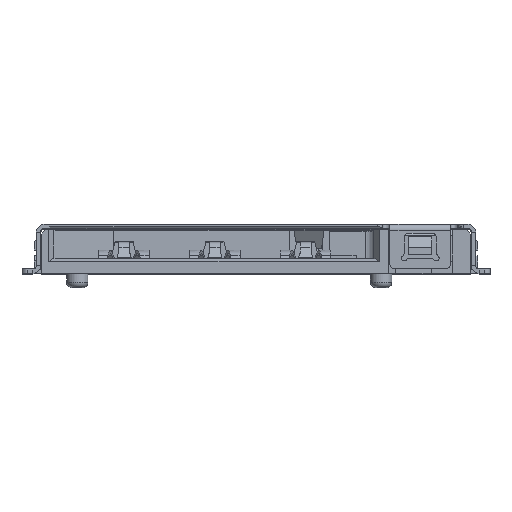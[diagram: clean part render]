
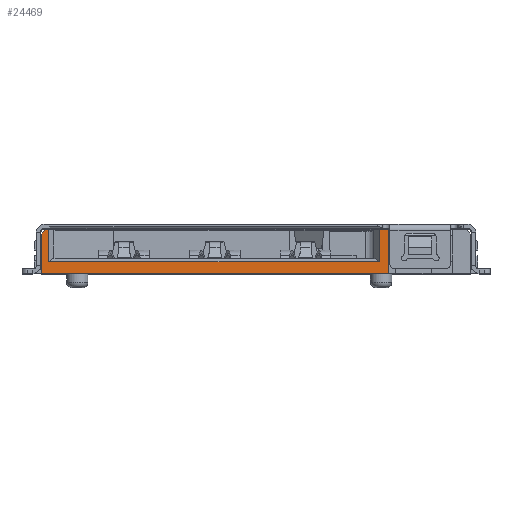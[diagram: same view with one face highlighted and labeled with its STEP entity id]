
A CAD part, top view. The second image highlights one B-rep face of the part: STEP entity #24469.
In plain terms, the highlighted planar face has unit normal (0, 0, 1).
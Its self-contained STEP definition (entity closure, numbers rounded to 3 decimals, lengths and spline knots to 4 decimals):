
#659=DIRECTION('',(-1.,0.,0.));
#660=VECTOR('',#659,0.245);
#661=CARTESIAN_POINT('',(0.7169,0.7574,6.75));
#662=LINE('',#661,#660);
#663=DIRECTION('',(1.,0.,0.));
#664=VECTOR('',#663,9.695);
#665=CARTESIAN_POINT('',(-8.9781,-0.4626,6.75));
#666=LINE('',#665,#664);
#667=DIRECTION('',(-0.713,-0.702,0.));
#668=VECTOR('',#667,0.1754);
#669=CARTESIAN_POINT('',(-8.8531,0.7574,6.75));
#670=LINE('',#669,#668);
#671=DIRECTION('',(-1.,0.,0.));
#672=VECTOR('',#671,0.075);
#673=CARTESIAN_POINT('',(-8.7781,0.7574,6.75));
#674=LINE('',#673,#672);
#675=DIRECTION('',(0.,1.,0.));
#676=VECTOR('',#675,0.9);
#677=CARTESIAN_POINT('',(-8.7781,-0.1426,6.75));
#678=LINE('',#677,#676);
#679=DIRECTION('',(-1.,0.,0.));
#680=VECTOR('',#679,9.25);
#681=CARTESIAN_POINT('',(0.4719,-0.1426,6.75));
#682=LINE('',#681,#680);
#683=DIRECTION('',(0.,1.,0.));
#684=VECTOR('',#683,0.9);
#685=CARTESIAN_POINT('',(0.4719,-0.1426,6.75));
#686=LINE('',#685,#684);
#6027=DIRECTION('',(0.,-1.,0.));
#6028=VECTOR('',#6027,1.0969);
#6029=CARTESIAN_POINT('',(-8.9781,0.6344,6.75));
#6030=LINE('',#6029,#6028);
#13980=DIRECTION('',(0.,-1.,0.));
#13981=VECTOR('',#13980,1.22);
#13982=CARTESIAN_POINT('',(0.7169,0.7574,6.75));
#13983=LINE('',#13982,#13981);
#19086=CARTESIAN_POINT('',(0.7169,-0.4626,6.75));
#19087=VERTEX_POINT('',#19086);
#19088=CARTESIAN_POINT('',(-8.9781,-0.4626,6.75));
#19089=VERTEX_POINT('',#19088);
#19560=CARTESIAN_POINT('',(-8.7781,0.7574,6.75));
#19561=VERTEX_POINT('',#19560);
#19562=CARTESIAN_POINT('',(-8.8531,0.7574,6.75));
#19563=VERTEX_POINT('',#19562);
#19572=CARTESIAN_POINT('',(0.7169,0.7574,6.75));
#19573=VERTEX_POINT('',#19572);
#19574=CARTESIAN_POINT('',(0.4719,0.7574,6.75));
#19575=VERTEX_POINT('',#19574);
#19982=CARTESIAN_POINT('',(-8.7781,-0.1426,6.75));
#19983=VERTEX_POINT('',#19982);
#19984=CARTESIAN_POINT('',(0.4719,-0.1426,6.75));
#19985=VERTEX_POINT('',#19984);
#19986=CARTESIAN_POINT('',(-8.9781,0.6344,6.75));
#19987=VERTEX_POINT('',#19986);
#24449=CARTESIAN_POINT('',(-4.1306,0.1474,6.75));
#24450=DIRECTION('',(0.,0.,1.));
#24451=DIRECTION('',(-1.,0.,0.));
#24452=AXIS2_PLACEMENT_3D('',#24449,#24450,#24451);
#24453=PLANE('',#24452);
#24455=ORIENTED_EDGE('',*,*,#24454,.T.);
#24456=ORIENTED_EDGE('',*,*,#23843,.F.);
#24458=ORIENTED_EDGE('',*,*,#24457,.T.);
#24459=ORIENTED_EDGE('',*,*,#23145,.F.);
#24461=ORIENTED_EDGE('',*,*,#24460,.F.);
#24463=ORIENTED_EDGE('',*,*,#24462,.F.);
#24464=ORIENTED_EDGE('',*,*,#23828,.F.);
#24465=ORIENTED_EDGE('',*,*,#24430,.F.);
#24466=ORIENTED_EDGE('',*,*,#24440,.F.);
#24467=EDGE_LOOP('',(#24455,#24456,#24458,#24459,#24461,#24463,#24464,#24465,
#24466));
#24468=FACE_OUTER_BOUND('',#24467,.F.);
#23145=EDGE_CURVE('',#19089,#19087,#666,.T.);
#23828=EDGE_CURVE('',#19561,#19563,#674,.T.);
#23843=EDGE_CURVE('',#19573,#19575,#662,.T.);
#24430=EDGE_CURVE('',#19983,#19561,#678,.T.);
#24440=EDGE_CURVE('',#19985,#19983,#682,.T.);
#24454=EDGE_CURVE('',#19985,#19575,#686,.T.);
#24457=EDGE_CURVE('',#19573,#19087,#13983,.T.);
#24460=EDGE_CURVE('',#19987,#19089,#6030,.T.);
#24462=EDGE_CURVE('',#19563,#19987,#670,.T.);
#24469=ADVANCED_FACE('',(#24468),#24453,.T.);
